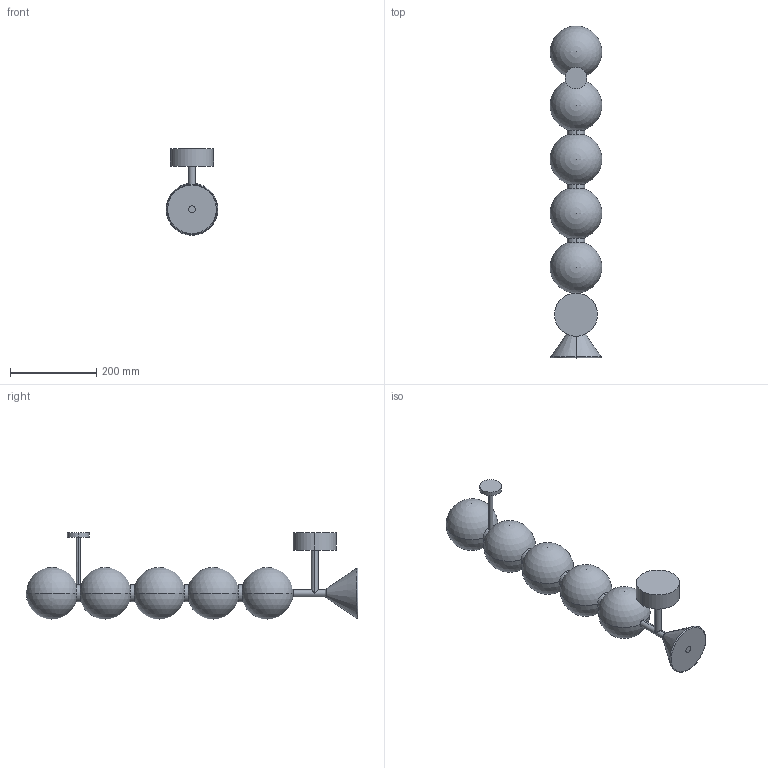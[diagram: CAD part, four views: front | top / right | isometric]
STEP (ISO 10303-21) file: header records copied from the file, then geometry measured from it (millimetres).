
FILE_DESCRIPTION (( 'STEP AP214' ), '1' );
FILE_NAME ('APLIQUE SOKO_5.STEP', '2024-10-14T15:14:34', ( '' ), ( '' ), 'SwSTEP 2.0', 'SolidWorks 2018', '' );
FILE_SCHEMA (( 'AUTOMOTIVE_DESIGN' ));
Length unit declared in the file: millimetre
Products named in the file (1): APLIQUE SOKO_5
Bounding box: 120 x 768.15 x 200 mm (x, y, z)
Volume: 5299006 mm3; surface area: 321342.4 mm2
Topology: 13 solids, 13 shells, 52 faces, 112 edges, 74 vertices
Faces by surface type: plane 18, cylinder 18, sphere 10, torus 4, cone 2
Entity records: 1444 total; most frequent: CARTESIAN_POINT 281, DIRECTION 236, ORIENTED_EDGE 170, AXIS2_PLACEMENT_3D 106, EDGE_CURVE 85, VERTEX_POINT 59, CIRCLE 53, ADVANCED_FACE 52
